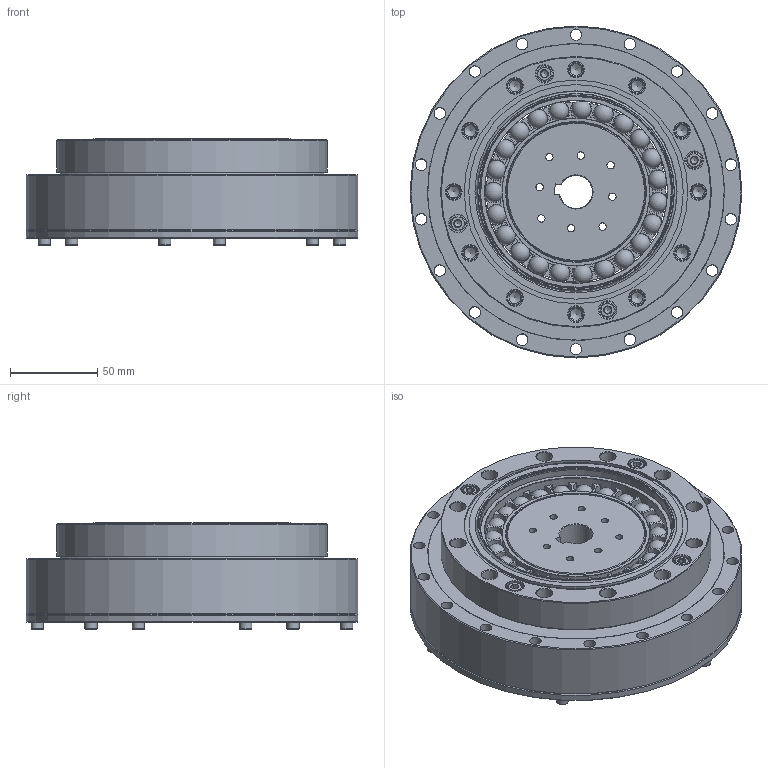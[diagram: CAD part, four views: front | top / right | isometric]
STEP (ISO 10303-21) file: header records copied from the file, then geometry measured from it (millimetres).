
FILE_DESCRIPTION(/* description */ (''),/* implementation_level */ '2;1');
FILE_NAME(/* name */ 'FHG-45-XX-U-I(孔径19).stp',/* time_stamp */ '2024-12-06T10:10:21+08:00',/* author */ (''),/* organization */ (''),/* preprocessor_version */ 'ST-DEVELOPER v16.7',/* originating_system */ 'SIEMENS PLM Software NX 12.0',/* authorisation */ '');
FILE_SCHEMA (('AUTOMOTIVE_DESIGN { 1 0 10303 214 3 1 1 1 }'));
Length unit declared in the file: millimetre
Products named in the file (15): TC-152x170x7_stp; EB7911016-45KCH-46; EB7911016-45KCH-04; EB7911016-45KCH-02; EB7911016-45KCH-01; GB-T70.1-2000,M4x12; GB-T70.1-2000,M5x20; O型密封圈128-122.8-1.5; O型密封圈170-164-1.5; 发生器FSG-45-XXDL直径19_stp; 刚轮FHG-45; 柔轮FHG-45; 交叉轴承LHT-45_stp; EB7911016-45KCH_stp; FHG-45-XX-U-I(孔径19)
Assembly tree (22 placements, depth 3):
  FHG-45-XX-U-I(孔径19)
    柔轮FHG-45
    刚轮FHG-45
    EB7911016-45KCH_stp
      EB7911016-45KCH-01
      EB7911016-45KCH-02
      EB7911016-45KCH-04
      EB7911016-45KCH-46
    发生器FSG-45-XXDL直径19_stp
    交叉轴承LHT-45_stp
      TC-152x170x7_stp
    O型密封圈170-164-1.5
    O型密封圈128-122.8-1.5
    GB-T70.1-2000,M5x20  x4
    GB-T70.1-2000,M4x12  x6
Bounding box: 190 x 190 x 61 mm (x, y, z)
Volume: 822362.9 mm3; surface area: 328818.4 mm2
Topology: 44 solids, 44 shells, 821 faces, 1892 edges, 1151 vertices
Faces by surface type: plane 249, cone 239, cylinder 217, torus 91, sphere 23, bspline 2
Full cylindrical faces by diameter (mm): 2.5 x4, 3.3 x6, 3.838 x6, 4.2 x20, 4.5 x6, 4.826 x4, 5.5 x4, 6.5 x18, 6.6 x18, 6.8 x12, 7 x6, 8.5 x4, 9 x12, 10 x4, 32 x1, 77 x1, 79.48 x2, 83 x1, 84.7 x2, 87.5 x1, 92 x1, 102.6 x1, 104.54 x2, 110.43 x2, 111.722 x1, 113.3 x1, 115.54 x1, 118 x1, 120 x2, 122.8 x3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
Entity records: 18264 total; most frequent: CARTESIAN_POINT 4986, DIRECTION 2857, ORIENTED_EDGE 1998, AXIS2_PLACEMENT_3D 1344, EDGE_LOOP 1081, EDGE_CURVE 999, FACE_BOUND 913, VERTEX_POINT 835
